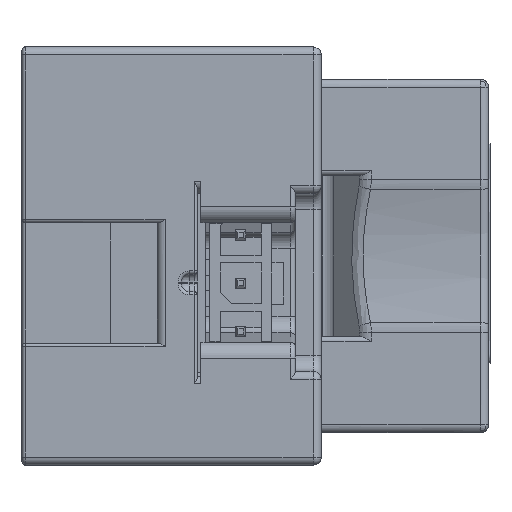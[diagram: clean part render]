
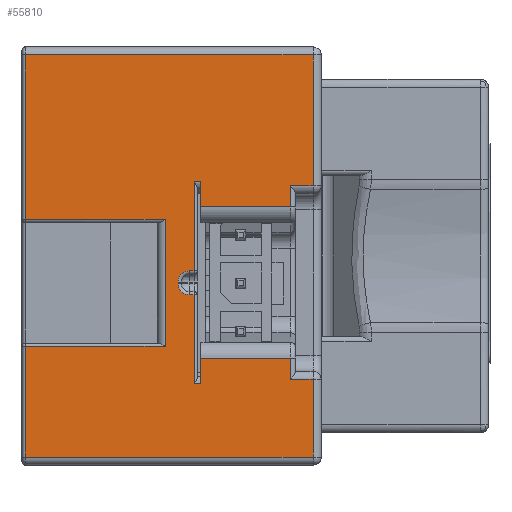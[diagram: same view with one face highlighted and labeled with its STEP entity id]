
A CAD part, front view. The second image highlights one B-rep face of the part: STEP entity #55810.
In plain terms, the highlighted planar face has unit normal (0, -1, 0).
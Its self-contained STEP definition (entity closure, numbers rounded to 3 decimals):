
#53640=CARTESIAN_POINT('',(114.098,-52.955,8.6));
#53650=DIRECTION('',(0.,-1.,0.));
#53660=DIRECTION('',(0.,0.,-1.));
#53670=AXIS2_PLACEMENT_3D('',#53640,#53650,#53660);
#53680=PLANE('',#53670);
#53690=CARTESIAN_POINT('',(92.098,-52.955,0.));
#53700=DIRECTION('',(0.,0.,1.));
#53710=VECTOR('',#53700,1.);
#53720=LINE('',#53690,#53710);
#53730=CARTESIAN_POINT('',(92.098,-52.955,2.283));
#53740=VERTEX_POINT('',#53730);
#53750=CARTESIAN_POINT('',(92.098,-52.955,12.5));
#53760=VERTEX_POINT('',#53750);
#53770=EDGE_CURVE('',#53740,#53760,#53720,.T.);
#53780=ORIENTED_EDGE('',*,*,#53770,.F.);
#53790=CARTESIAN_POINT('',(0.,-52.955,12.5
));
#53800=DIRECTION('',(-1.,0.,0.));
#53810=VECTOR('',#53800,1.);
#53820=LINE('',#53790,#53810);
#53830=CARTESIAN_POINT('',(109.998,-52.955,12.5));
#53840=VERTEX_POINT('',#53830);
#53850=EDGE_CURVE('',#53840,#53760,#53820,.T.);
#53860=ORIENTED_EDGE('',*,*,#53850,.T.);
#53870=CARTESIAN_POINT('',(109.998,-52.955,5.6));
#53880=DIRECTION('',(0.,0.,1.));
#53890=VECTOR('',#53880,1.);
#53900=LINE('',#53870,#53890);
#53910=CARTESIAN_POINT('',(109.998,-52.955,4.375));
#53920=VERTEX_POINT('',#53910);
#53930=EDGE_CURVE('',#53920,#53840,#53900,.T.);
#53940=ORIENTED_EDGE('',*,*,#53930,.T.);
#53950=CARTESIAN_POINT('',(114.798,-52.955,4.375));
#53960=DIRECTION('',(1.,0.,0.));
#53970=VECTOR('',#53960,1.);
#53980=LINE('',#53950,#53970);
#53990=CARTESIAN_POINT('',(108.598,-52.955,4.375));
#54000=VERTEX_POINT('',#53990);
#54010=EDGE_CURVE('',#54000,#53920,#53980,.T.);
#54020=ORIENTED_EDGE('',*,*,#54010,.T.);
#54030=CARTESIAN_POINT('',(108.598,-52.955,5.6));
#54040=DIRECTION('',(0.,0.,-1.));
#54050=VECTOR('',#54040,1.);
#54060=LINE('',#54030,#54050);
#54070=CARTESIAN_POINT('',(108.598,-52.955,3.05));
#54080=VERTEX_POINT('',#54070);
#54090=EDGE_CURVE('',#54000,#54080,#54060,.T.);
#54100=ORIENTED_EDGE('',*,*,#54090,.F.);
#54110=CARTESIAN_POINT('',(96.068,-52.955,3.05));
#54120=DIRECTION('',(1.,0.,0.));
#54130=VECTOR('',#54120,1.);
#54140=LINE('',#54110,#54130);
#54150=CARTESIAN_POINT('',(102.998,-52.955,3.05));
#54160=VERTEX_POINT('',#54150);
#54170=EDGE_CURVE('',#54160,#54080,#54140,.T.);
#54180=ORIENTED_EDGE('',*,*,#54170,.T.);
#54190=CARTESIAN_POINT('',(102.998,-52.955,5.6));
#54200=DIRECTION('',(0.,0.,1.));
#54210=VECTOR('',#54200,1.);
#54220=LINE('',#54190,#54210);
#54230=CARTESIAN_POINT('',(102.998,-52.955,4.621));
#54240=VERTEX_POINT('',#54230);
#54250=EDGE_CURVE('',#54160,#54240,#54220,.T.);
#54260=ORIENTED_EDGE('',*,*,#54250,.F.);
#54270=CARTESIAN_POINT('',(0.,-52.955,4.621
));
#54280=DIRECTION('',(1.,0.,0.));
#54290=VECTOR('',#54280,1.);
#54300=LINE('',#54270,#54290);
#54310=CARTESIAN_POINT('',(102.598,-52.955,4.621));
#54320=VERTEX_POINT('',#54310);
#54330=EDGE_CURVE('',#54320,#54240,#54300,.T.);
#54340=ORIENTED_EDGE('',*,*,#54330,.T.);
#54350=CARTESIAN_POINT('',(102.598,-52.955,0.));
#54360=DIRECTION('',(0.,0.,1.));
#54370=VECTOR('',#54360,1.);
#54380=LINE('',#54350,#54370);
#54390=CARTESIAN_POINT('',(102.598,-52.955,-0.924));
#54400=VERTEX_POINT('',#54390);
#54410=EDGE_CURVE('',#54400,#54320,#54380,.T.);
#54420=ORIENTED_EDGE('',*,*,#54410,.T.);
#54430=CARTESIAN_POINT('',(0.,-52.955,
-0.924));
#54440=DIRECTION('',(-1.,0.,0.));
#54450=VECTOR('',#54440,1.);
#54460=LINE('',#54430,#54450);
#54470=CARTESIAN_POINT('',(102.298,-52.955,-0.924));
#54480=VERTEX_POINT('',#54470);
#54490=EDGE_CURVE('',#54400,#54480,#54460,.T.);
#54500=ORIENTED_EDGE('',*,*,#54490,.F.);
#54510=CARTESIAN_POINT('',(102.298,-52.955,-1.617));
#54520=DIRECTION('',(0.,1.,0.));
#54530=DIRECTION('',(-1.,0.,0.));
#54540=AXIS2_PLACEMENT_3D('',#54510,#54520,#54530);
#54550=CIRCLE('',#54540,0.693);
#54560=CARTESIAN_POINT('',(101.605,-52.955,-1.617));
#54570=VERTEX_POINT('',#54560);
#54580=EDGE_CURVE('',#54570,#54480,#54550,.T.);
#54590=ORIENTED_EDGE('',*,*,#54580,.T.);
#54600=CARTESIAN_POINT('',(101.605,-52.955,-1.617));
#54610=DIRECTION('',(0.,0.,1.));
#54620=VECTOR('',#54610,1.);
#54630=LINE('',#54600,#54620);
#54640=CARTESIAN_POINT('',(101.605,-52.955,-1.717));
#54650=VERTEX_POINT('',#54640);
#54660=EDGE_CURVE('',#54650,#54570,#54630,.T.);
#54670=ORIENTED_EDGE('',*,*,#54660,.T.);
#54680=CARTESIAN_POINT('',(102.298,-52.955,-1.717));
#54690=DIRECTION('',(0.,-1.,0.));
#54700=DIRECTION('',(-1.,0.,0.));
#54710=AXIS2_PLACEMENT_3D('',#54680,#54690,#54700);
#54720=CIRCLE('',#54710,0.693);
#54730=CARTESIAN_POINT('',(102.298,-52.955,-2.41));
#54740=VERTEX_POINT('',#54730);
#54750=EDGE_CURVE('',#54650,#54740,#54720,.T.);
#54760=ORIENTED_EDGE('',*,*,#54750,.F.);
#54770=CARTESIAN_POINT('',(102.298,-52.955,-2.41));
#54780=DIRECTION('',(-1.,0.,0.));
#54790=VECTOR('',#54780,1.);
#54800=LINE('',#54770,#54790);
#54810=CARTESIAN_POINT('',(102.598,-52.955,-2.41));
#54820=VERTEX_POINT('',#54810);
#54830=EDGE_CURVE('',#54820,#54740,#54800,.T.);
#54840=ORIENTED_EDGE('',*,*,#54830,.T.);
#54850=CARTESIAN_POINT('',(102.598,-52.955,0.));
#54860=DIRECTION('',(0.,0.,1.));
#54870=VECTOR('',#54860,1.);
#54880=LINE('',#54850,#54870);
#54890=CARTESIAN_POINT('',(102.598,-52.955,-7.956));
#54900=VERTEX_POINT('',#54890);
#54910=EDGE_CURVE('',#54900,#54820,#54880,.T.);
#54920=ORIENTED_EDGE('',*,*,#54910,.T.);
#54930=CARTESIAN_POINT('',(0.,-52.955,
-7.956));
#54940=DIRECTION('',(-1.,0.,0.));
#54950=VECTOR('',#54940,1.);
#54960=LINE('',#54930,#54950);
#54970=CARTESIAN_POINT('',(102.998,-52.955,-7.956));
#54980=VERTEX_POINT('',#54970);
#54990=EDGE_CURVE('',#54980,#54900,#54960,.T.);
#55000=ORIENTED_EDGE('',*,*,#54990,.T.);
#55010=CARTESIAN_POINT('',(102.998,-52.955,5.6));
#55020=DIRECTION('',(0.,0.,1.));
#55030=VECTOR('',#55020,1.);
#55040=LINE('',#55010,#55030);
#55050=CARTESIAN_POINT('',(102.998,-52.955,-6.35));
#55060=VERTEX_POINT('',#55050);
#55070=EDGE_CURVE('',#54980,#55060,#55040,.T.);
#55080=ORIENTED_EDGE('',*,*,#55070,.F.);
#55090=CARTESIAN_POINT('',(115.628,-52.955,-6.35));
#55100=DIRECTION('',(-1.,0.,0.));
#55110=VECTOR('',#55100,1.);
#55120=LINE('',#55090,#55110);
#55130=CARTESIAN_POINT('',(108.598,-52.955,-6.35));
#55140=VERTEX_POINT('',#55130);
#55150=EDGE_CURVE('',#55140,#55060,#55120,.T.);
#55160=ORIENTED_EDGE('',*,*,#55150,.T.);
#55170=CARTESIAN_POINT('',(108.598,-52.955,5.6));
#55180=DIRECTION('',(0.,0.,-1.));
#55190=VECTOR('',#55180,1.);
#55200=LINE('',#55170,#55190);
#55210=CARTESIAN_POINT('',(108.598,-52.955,-7.675));
#55220=VERTEX_POINT('',#55210);
#55230=EDGE_CURVE('',#55140,#55220,#55200,.T.);
#55240=ORIENTED_EDGE('',*,*,#55230,.F.);
#55250=CARTESIAN_POINT('',(114.798,-52.955,-7.675));
#55260=DIRECTION('',(1.,0.,0.));
#55270=VECTOR('',#55260,1.);
#55280=LINE('',#55250,#55270);
#55290=CARTESIAN_POINT('',(109.998,-52.955,-7.675));
#55300=VERTEX_POINT('',#55290);
#55310=EDGE_CURVE('',#55220,#55300,#55280,.T.);
#55320=ORIENTED_EDGE('',*,*,#55310,.F.);
#55330=CARTESIAN_POINT('',(109.998,-52.955,5.6));
#55340=DIRECTION('',(0.,0.,1.));
#55350=VECTOR('',#55340,1.);
#55360=LINE('',#55330,#55350);
#55370=CARTESIAN_POINT('',(109.998,-52.955,-12.5));
#55380=VERTEX_POINT('',#55370);
#55390=EDGE_CURVE('',#55380,#55300,#55360,.T.);
#55400=ORIENTED_EDGE('',*,*,#55390,.T.);
#55410=CARTESIAN_POINT('',(0.,-52.955,
-12.5));
#55420=DIRECTION('',(1.,0.,0.));
#55430=VECTOR('',#55420,1.);
#55440=LINE('',#55410,#55430);
#55450=CARTESIAN_POINT('',(92.098,-52.955,-12.5));
#55460=VERTEX_POINT('',#55450);
#55470=EDGE_CURVE('',#55460,#55380,#55440,.T.);
#55480=ORIENTED_EDGE('',*,*,#55470,.T.);
#55490=CARTESIAN_POINT('',(92.098,-52.955,0.));
#55500=DIRECTION('',(0.,0.,1.));
#55510=VECTOR('',#55500,1.);
#55520=LINE('',#55490,#55510);
#55530=CARTESIAN_POINT('',(92.098,-52.955,-5.617));
#55540=VERTEX_POINT('',#55530);
#55550=EDGE_CURVE('',#55460,#55540,#55520,.T.);
#55560=ORIENTED_EDGE('',*,*,#55550,.F.);
#55570=CARTESIAN_POINT('',(0.,-52.955,
-5.617));
#55580=DIRECTION('',(-1.,0.,0.));
#55590=VECTOR('',#55580,1.);
#55600=LINE('',#55570,#55590);
#55610=CARTESIAN_POINT('',(100.798,-52.955,-5.617));
#55620=VERTEX_POINT('',#55610);
#55630=EDGE_CURVE('',#55620,#55540,#55600,.T.);
#55640=ORIENTED_EDGE('',*,*,#55630,.T.);
#55650=CARTESIAN_POINT('',(100.798,-52.955,0.));
#55660=DIRECTION('',(0.,0.,1.));
#55670=VECTOR('',#55660,1.);
#55680=LINE('',#55650,#55670);
#55690=CARTESIAN_POINT('',(100.798,-52.955,2.283));
#55700=VERTEX_POINT('',#55690);
#55710=EDGE_CURVE('',#55620,#55700,#55680,.T.);
#55720=ORIENTED_EDGE('',*,*,#55710,.F.);
#55730=CARTESIAN_POINT('',(0.,-52.955,2.283
));
#55740=DIRECTION('',(-1.,0.,0.));
#55750=VECTOR('',#55740,1.);
#55760=LINE('',#55730,#55750);
#55770=EDGE_CURVE('',#55700,#53740,#55760,.T.);
#55780=ORIENTED_EDGE('',*,*,#55770,.F.);
#55790=EDGE_LOOP('',(#55780,#55720,#55640,#55560,#55480,#55400,#55320,
#55240,#55160,#55080,#55000,#54920,#54840,#54760,#54670,#54590,#54500,
#54420,#54340,#54260,#54180,#54100,#54020,#53940,#53860,#53780));
#55800=FACE_OUTER_BOUND('',#55790,.T.);
#55810=ADVANCED_FACE('',(#55800),#53680,.T.);
